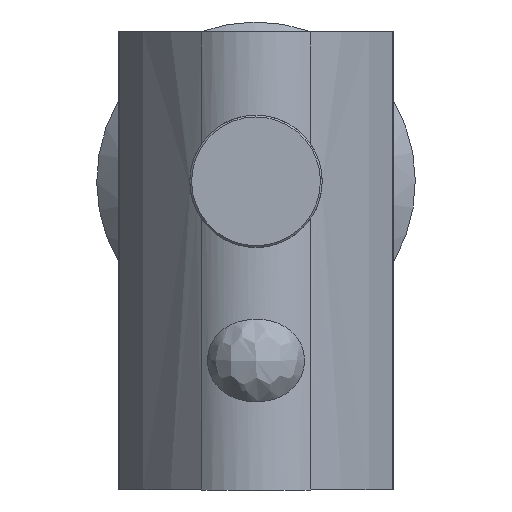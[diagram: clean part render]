
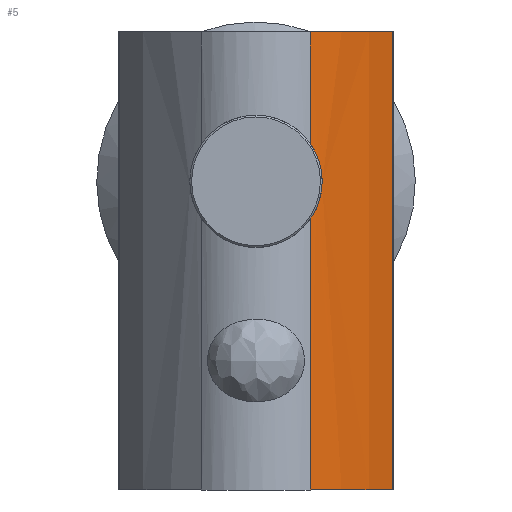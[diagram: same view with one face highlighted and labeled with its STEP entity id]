
A CAD part, front view. The second image highlights one B-rep face of the part: STEP entity #5.
In plain terms, the highlighted cylindrical face has radius 20 mm (diameter 40 mm), a partial arc.
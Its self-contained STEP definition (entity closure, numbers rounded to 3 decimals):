
#5 = ADVANCED_FACE ( 'NONE', ( #215 ), #628, .T. ) ;
#20 = ORIENTED_EDGE ( 'NONE', *, *, #824, .T. ) ;
#43 = CARTESIAN_POINT ( 'NONE',  ( -3.308, -5.564, 7.139 ) ) ;
#47 = CARTESIAN_POINT ( 'NONE',  ( -3.31, -5.563, 7.85 ) ) ;
#73 = CARTESIAN_POINT ( 'NONE',  ( -2.903, -5.963, 9.149 ) ) ;
#74 = DIRECTION ( 'NONE',  ( 0., 0., 1. ) ) ;
#134 = LINE ( 'NONE', #1334, #1388 ) ;
#182 = EDGE_LOOP ( 'NONE', ( #851, #20, #408, #359, #402, #1129 ) ) ;
#189 = LINE ( 'NONE', #1035, #887 ) ;
#203 = CARTESIAN_POINT ( 'NONE',  ( -2.721, -6.132, 5.592 ) ) ;
#215 = FACE_OUTER_BOUND ( 'NONE', #182, .T. ) ;
#266 = DIRECTION ( 'NONE',  ( 1., 0., 0. ) ) ;
#271 = VERTEX_POINT ( 'NONE', #1393 ) ;
#297 = VERTEX_POINT ( 'NONE', #844 ) ;
#303 = DIRECTION ( 'NONE',  ( 0., 0., 1. ) ) ;
#320 = CARTESIAN_POINT ( 'NONE',  ( -2.721, -6.132, 0. ) ) ;
#336 = EDGE_CURVE ( 'NONE', #1004, #953, #863, .T. ) ;
#359 = ORIENTED_EDGE ( 'NONE', *, *, #1112, .F. ) ;
#402 = ORIENTED_EDGE ( 'NONE', *, *, #426, .F. ) ;
#408 = ORIENTED_EDGE ( 'NONE', *, *, #336, .T. ) ;
#424 = DIRECTION ( 'NONE',  ( 0., 0., 1. ) ) ;
#426 = EDGE_CURVE ( 'NONE', #1073, #297, #988, .T. ) ;
#493 = CARTESIAN_POINT ( 'NONE',  ( -3.254, -5.618, 8.198 ) ) ;
#495 = DIRECTION ( 'NONE',  ( 0., 0., 1. ) ) ;
#503 = CARTESIAN_POINT ( 'NONE',  ( 10.885, 8.527, 23. ) ) ;
#509 = CARTESIAN_POINT ( 'NONE',  ( -6.843, -0.731, 23. ) ) ;
#516 = CARTESIAN_POINT ( 'NONE',  ( -3.212, -5.661, 6.628 ) ) ;
#570 = CARTESIAN_POINT ( 'NONE',  ( -3.054, -5.816, 8.854 ) ) ;
#575 = CARTESIAN_POINT ( 'NONE',  ( -2.721, -6.132, 5.592 ) ) ;
#602 = CARTESIAN_POINT ( 'NONE',  ( -3.324, -5.549, 7.675 ) ) ;
#628 = CYLINDRICAL_SURFACE ( 'NONE', #1306, 20. ) ;
#645 = VERTEX_POINT ( 'NONE', #879 ) ;
#665 = AXIS2_PLACEMENT_3D ( 'NONE', #1130, #303, #266 ) ;
#685 = CARTESIAN_POINT ( 'NONE',  ( -2.812, -6.048, 5.721 ) ) ;
#695 = DIRECTION ( 'NONE',  ( -1., 0., 0. ) ) ;
#747 = CARTESIAN_POINT ( 'NONE',  ( -3.252, -5.62, 6.795 ) ) ;
#757 = CARTESIAN_POINT ( 'NONE',  ( 10.885, 8.527, 0. ) ) ;
#794 = DIRECTION ( 'NONE',  ( 0., 0., -1. ) ) ;
#807 = CARTESIAN_POINT ( 'NONE',  ( -3.212, -5.66, 8.369 ) ) ;
#824 = EDGE_CURVE ( 'NONE', #271, #1004, #885, .T. ) ;
#844 = CARTESIAN_POINT ( 'NONE',  ( -2.721, -6.132, 23. ) ) ;
#848 = CARTESIAN_POINT ( 'NONE',  ( -2.721, -6.132, 9.408 ) ) ;
#851 = ORIENTED_EDGE ( 'NONE', *, *, #1102, .T. ) ;
#860 = CARTESIAN_POINT ( 'NONE',  ( -2.894, -5.97, 5.858 ) ) ;
#863 = B_SPLINE_CURVE_WITH_KNOTS ( 'NONE', 3,
 ( #575, #685, #860, #1074, #1303, #516, #747, #43, #1360, #602, #47, #493, #807, #570, #73, #848 ),
 .UNSPECIFIED., .F., .F.,
 ( 4, 2, 2, 2, 2, 2, 2, 4 ),
 ( 0., 0.001, 0.001, 0.002, 0.002, 0.003, 0.003, 0.004 ),
 .UNSPECIFIED. ) ;
#879 = CARTESIAN_POINT ( 'NONE',  ( -6.843, -0.731, 0. ) ) ;
#885 = LINE ( 'NONE', #320, #1268 ) ;
#887 = VECTOR ( 'NONE', #794, 1000. ) ;
#898 = CARTESIAN_POINT ( 'NONE',  ( -2.721, -6.132, 9.408 ) ) ;
#914 = CIRCLE ( 'NONE', #665, 20. ) ;
#927 = DIRECTION ( 'NONE',  ( 1., 0., 0. ) ) ;
#953 = VERTEX_POINT ( 'NONE', #898 ) ;
#988 = CIRCLE ( 'NONE', #1289, 20. ) ;
#1004 = VERTEX_POINT ( 'NONE', #203 ) ;
#1035 = CARTESIAN_POINT ( 'NONE',  ( -2.721, -6.132, 0. ) ) ;
#1047 = EDGE_CURVE ( 'NONE', #645, #1073, #134, .T. ) ;
#1073 = VERTEX_POINT ( 'NONE', #509 ) ;
#1074 = CARTESIAN_POINT ( 'NONE',  ( -3.041, -5.829, 6.149 ) ) ;
#1102 = EDGE_CURVE ( 'NONE', #645, #271, #914, .T. ) ;
#1112 = EDGE_CURVE ( 'NONE', #297, #953, #189, .T. ) ;
#1129 = ORIENTED_EDGE ( 'NONE', *, *, #1047, .F. ) ;
#1130 = CARTESIAN_POINT ( 'NONE',  ( 10.885, 8.527, 0. ) ) ;
#1268 = VECTOR ( 'NONE', #424, 1000. ) ;
#1289 = AXIS2_PLACEMENT_3D ( 'NONE', #503, #74, #695 ) ;
#1298 = DIRECTION ( 'NONE',  ( 0., 0., 1. ) ) ;
#1303 = CARTESIAN_POINT ( 'NONE',  ( -3.105, -5.766, 6.304 ) ) ;
#1306 = AXIS2_PLACEMENT_3D ( 'NONE', #757, #1298, #927 ) ;
#1334 = CARTESIAN_POINT ( 'NONE',  ( -6.843, -0.731, 0. ) ) ;
#1360 = CARTESIAN_POINT ( 'NONE',  ( -3.323, -5.549, 7.318 ) ) ;
#1388 = VECTOR ( 'NONE', #495, 1000. ) ;
#1393 = CARTESIAN_POINT ( 'NONE',  ( -2.721, -6.132, 0. ) ) ;
